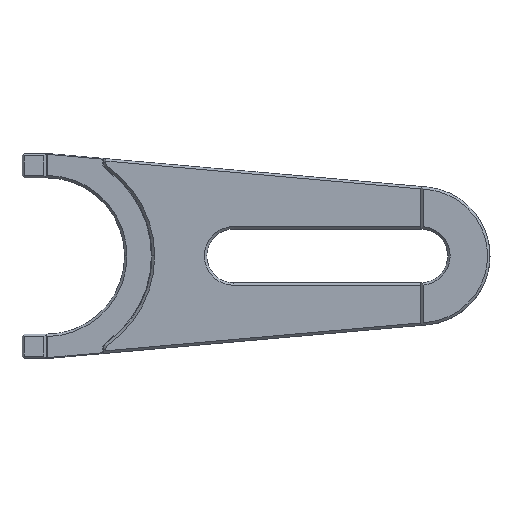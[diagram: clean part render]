
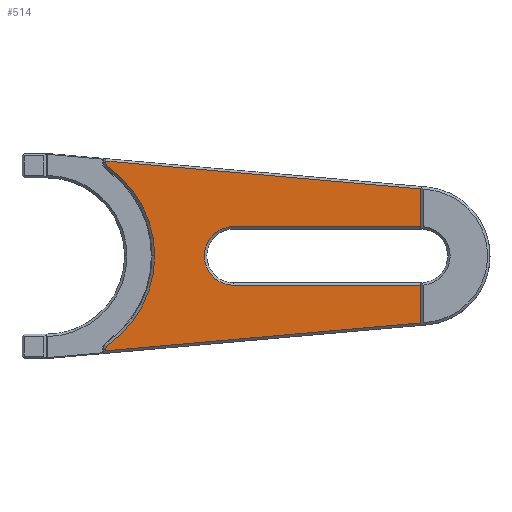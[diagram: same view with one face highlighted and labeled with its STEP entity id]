
A CAD part, top view. The second image highlights one B-rep face of the part: STEP entity #514.
In plain terms, the highlighted planar face has unit normal (0, 0, 1).
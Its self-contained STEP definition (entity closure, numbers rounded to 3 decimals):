
#10 = VERTEX_POINT ( 'NONE', #2897 ) ;
#51 = CARTESIAN_POINT ( 'NONE',  ( -23., -3.6, 8.5 ) ) ;
#60 = CARTESIAN_POINT ( 'NONE',  ( 0., 3.6, 8.5 ) ) ;
#65 = CARTESIAN_POINT ( 'NONE',  ( -38., 11.489, 8.5 ) ) ;
#107 = CARTESIAN_POINT ( 'NONE',  ( 0., 3.6, 8.5 ) ) ;
#134 = PLANE ( 'NONE',  #1954 ) ;
#153 = FACE_OUTER_BOUND ( 'NONE', #2291, .T. ) ;
#207 = ORIENTED_EDGE ( 'NONE', *, *, #1766, .T. ) ;
#225 = DIRECTION ( 'NONE',  ( 0., 1., 0. ) ) ;
#255 = DIRECTION ( 'NONE',  ( 0.996, 0.088, 0. ) ) ;
#263 = DIRECTION ( 'NONE',  ( 0., 0., 1. ) ) ;
#334 = DIRECTION ( 'NONE',  ( 0., 1., 0. ) ) ;
#376 = VERTEX_POINT ( 'NONE', #943 ) ;
#402 = AXIS2_PLACEMENT_3D ( 'NONE', #3333, #1268, #2441 ) ;
#404 = CIRCLE ( 'NONE', #2572, 0.7 ) ;
#419 = EDGE_CURVE ( 'NONE', #3105, #784, #2463, .T. ) ;
#430 = ORIENTED_EDGE ( 'NONE', *, *, #419, .T. ) ;
#455 = DIRECTION ( 'NONE',  ( 1., 0., 0. ) ) ;
#458 = DIRECTION ( 'NONE',  ( 0., 0., 1. ) ) ;
#482 = CARTESIAN_POINT ( 'NONE',  ( -0.026, -8.234, 8.5 ) ) ;
#512 = CARTESIAN_POINT ( 'NONE',  ( 0., -8.232, 8.5 ) ) ;
#514 = ADVANCED_FACE ( 'NONE', ( #153 ), #134, .T. ) ;
#546 = AXIS2_PLACEMENT_3D ( 'NONE', #2866, #3164, #455 ) ;
#566 = DIRECTION ( 'NONE',  ( 0., 0., -1. ) ) ;
#592 = CARTESIAN_POINT ( 'NONE',  ( -23., 3.6, 8.5 ) ) ;
#607 = VERTEX_POINT ( 'NONE', #51 ) ;
#612 = EDGE_CURVE ( 'NONE', #1651, #10, #404, .T. ) ;
#616 = EDGE_CURVE ( 'NONE', #2643, #3361, #2036, .T. ) ;
#623 = LINE ( 'NONE', #1791, #3211 ) ;
#649 = DIRECTION ( 'NONE',  ( 0., 0., -1. ) ) ;
#784 = VERTEX_POINT ( 'NONE', #107 ) ;
#796 = ORIENTED_EDGE ( 'NONE', *, *, #2720, .T. ) ;
#915 = ORIENTED_EDGE ( 'NONE', *, *, #616, .T. ) ;
#943 = CARTESIAN_POINT ( 'NONE',  ( -38.681, -11.652, 8.5 ) ) ;
#1030 = AXIS2_PLACEMENT_3D ( 'NONE', #1974, #3140, #1687 ) ;
#1043 = DIRECTION ( 'NONE',  ( 1., 0., 0. ) ) ;
#1062 = LINE ( 'NONE', #482, #2388 ) ;
#1096 = LINE ( 'NONE', #1648, #2113 ) ;
#1134 = EDGE_CURVE ( 'NONE', #376, #1746, #1062, .T. ) ;
#1224 = DIRECTION ( 'NONE',  ( 1., 0., 0. ) ) ;
#1237 = ORIENTED_EDGE ( 'NONE', *, *, #2464, .T. ) ;
#1268 = DIRECTION ( 'NONE',  ( 0., 0., -1. ) ) ;
#1275 = CARTESIAN_POINT ( 'NONE',  ( -38.4, -10.915, 8.5 ) ) ;
#1391 = VECTOR ( 'NONE', #3281, 1000. ) ;
#1411 = EDGE_CURVE ( 'NONE', #3249, #2211, #2199, .T. ) ;
#1446 = ORIENTED_EDGE ( 'NONE', *, *, #1949, .T. ) ;
#1514 = VERTEX_POINT ( 'NONE', #3545 ) ;
#1604 = ORIENTED_EDGE ( 'NONE', *, *, #2026, .T. ) ;
#1639 = CIRCLE ( 'NONE', #402, 13.3 ) ;
#1648 = CARTESIAN_POINT ( 'NONE',  ( 0., 0., 8.5 ) ) ;
#1651 = VERTEX_POINT ( 'NONE', #2780 ) ;
#1687 = DIRECTION ( 'NONE',  ( 1., 0., 0. ) ) ;
#1739 = ORIENTED_EDGE ( 'NONE', *, *, #2331, .T. ) ;
#1746 = VERTEX_POINT ( 'NONE', #512 ) ;
#1747 = CIRCLE ( 'NONE', #3331, 0.7 ) ;
#1760 = CARTESIAN_POINT ( 'NONE',  ( -23., -3.6, 8.5 ) ) ;
#1766 = EDGE_CURVE ( 'NONE', #784, #2643, #1096, .T. ) ;
#1791 = CARTESIAN_POINT ( 'NONE',  ( 0., 0., 8.5 ) ) ;
#1801 = VECTOR ( 'NONE', #2954, 1000. ) ;
#1882 = CIRCLE ( 'NONE', #1030, 0.7 ) ;
#1939 = CARTESIAN_POINT ( 'NONE',  ( 0., 0., 8.5 ) ) ;
#1944 = EDGE_CURVE ( 'NONE', #2934, #607, #2901, .T. ) ;
#1946 = VECTOR ( 'NONE', #3234, 1000. ) ;
#1949 = EDGE_CURVE ( 'NONE', #2211, #376, #1747, .T. ) ;
#1954 = AXIS2_PLACEMENT_3D ( 'NONE', #1939, #458, #1043 ) ;
#1974 = CARTESIAN_POINT ( 'NONE',  ( -38., 11.489, 8.5 ) ) ;
#2014 = CARTESIAN_POINT ( 'NONE',  ( -38., -11.489, 8.5 ) ) ;
#2026 = EDGE_CURVE ( 'NONE', #1746, #2934, #623, .T. ) ;
#2036 = LINE ( 'NONE', #2075, #1946 ) ;
#2075 = CARTESIAN_POINT ( 'NONE',  ( -38.903, 11.671, 8.5 ) ) ;
#2113 = VECTOR ( 'NONE', #225, 1000. ) ;
#2127 = ORIENTED_EDGE ( 'NONE', *, *, #1411, .T. ) ;
#2129 = ORIENTED_EDGE ( 'NONE', *, *, #3023, .T. ) ;
#2199 = CIRCLE ( 'NONE', #546, 0.7 ) ;
#2211 = VERTEX_POINT ( 'NONE', #3362 ) ;
#2291 = EDGE_LOOP ( 'NONE', ( #915, #2129, #2619, #1237, #796, #2127, #1446, #3151, #1604, #2928, #1739, #430, #207 ) ) ;
#2316 = CIRCLE ( 'NONE', #3225, 3.6 ) ;
#2331 = EDGE_CURVE ( 'NONE', #607, #3105, #2316, .T. ) ;
#2388 = VECTOR ( 'NONE', #255, 1000. ) ;
#2441 = DIRECTION ( 'NONE',  ( 1., 0., 0. ) ) ;
#2463 = LINE ( 'NONE', #60, #1391 ) ;
#2464 = EDGE_CURVE ( 'NONE', #10, #1514, #1639, .T. ) ;
#2572 = AXIS2_PLACEMENT_3D ( 'NONE', #65, #3214, #1224 ) ;
#2619 = ORIENTED_EDGE ( 'NONE', *, *, #612, .T. ) ;
#2643 = VERTEX_POINT ( 'NONE', #2671 ) ;
#2646 = DIRECTION ( 'NONE',  ( 1., 0., 0. ) ) ;
#2656 = DIRECTION ( 'NONE',  ( 1., 0., 0. ) ) ;
#2671 = CARTESIAN_POINT ( 'NONE',  ( 0., 8.232, 8.5 ) ) ;
#2707 = CARTESIAN_POINT ( 'NONE',  ( -46., 0., 8.5 ) ) ;
#2720 = EDGE_CURVE ( 'NONE', #1514, #3249, #2874, .T. ) ;
#2780 = CARTESIAN_POINT ( 'NONE',  ( -38.7, 11.489, 8.5 ) ) ;
#2866 = CARTESIAN_POINT ( 'NONE',  ( -38., -11.489, 8.5 ) ) ;
#2874 = CIRCLE ( 'NONE', #3227, 13.3 ) ;
#2897 = CARTESIAN_POINT ( 'NONE',  ( -38.4, 10.915, 8.5 ) ) ;
#2901 = LINE ( 'NONE', #1760, #1801 ) ;
#2928 = ORIENTED_EDGE ( 'NONE', *, *, #1944, .T. ) ;
#2934 = VERTEX_POINT ( 'NONE', #3433 ) ;
#2954 = DIRECTION ( 'NONE',  ( -1., 0., 0. ) ) ;
#3023 = EDGE_CURVE ( 'NONE', #3361, #1651, #1882, .T. ) ;
#3098 = CARTESIAN_POINT ( 'NONE',  ( -38.681, 11.652, 8.5 ) ) ;
#3105 = VERTEX_POINT ( 'NONE', #592 ) ;
#3140 = DIRECTION ( 'NONE',  ( 0., 0., 1. ) ) ;
#3151 = ORIENTED_EDGE ( 'NONE', *, *, #1134, .T. ) ;
#3164 = DIRECTION ( 'NONE',  ( 0., 0., 1. ) ) ;
#3211 = VECTOR ( 'NONE', #334, 1000. ) ;
#3214 = DIRECTION ( 'NONE',  ( 0., 0., 1. ) ) ;
#3225 = AXIS2_PLACEMENT_3D ( 'NONE', #3479, #566, #2646 ) ;
#3227 = AXIS2_PLACEMENT_3D ( 'NONE', #2707, #649, #2656 ) ;
#3234 = DIRECTION ( 'NONE',  ( -0.996, 0.088, 0. ) ) ;
#3249 = VERTEX_POINT ( 'NONE', #1275 ) ;
#3281 = DIRECTION ( 'NONE',  ( 1., 0., 0. ) ) ;
#3331 = AXIS2_PLACEMENT_3D ( 'NONE', #2014, #263, #3518 ) ;
#3333 = CARTESIAN_POINT ( 'NONE',  ( -46., 0., 8.5 ) ) ;
#3361 = VERTEX_POINT ( 'NONE', #3098 ) ;
#3362 = CARTESIAN_POINT ( 'NONE',  ( -38.7, -11.489, 8.5 ) ) ;
#3433 = CARTESIAN_POINT ( 'NONE',  ( 0., -3.6, 8.5 ) ) ;
#3479 = CARTESIAN_POINT ( 'NONE',  ( -23., 0., 8.5 ) ) ;
#3518 = DIRECTION ( 'NONE',  ( 1., 0., 0. ) ) ;
#3545 = CARTESIAN_POINT ( 'NONE',  ( -32.7, 0., 8.5 ) ) ;
